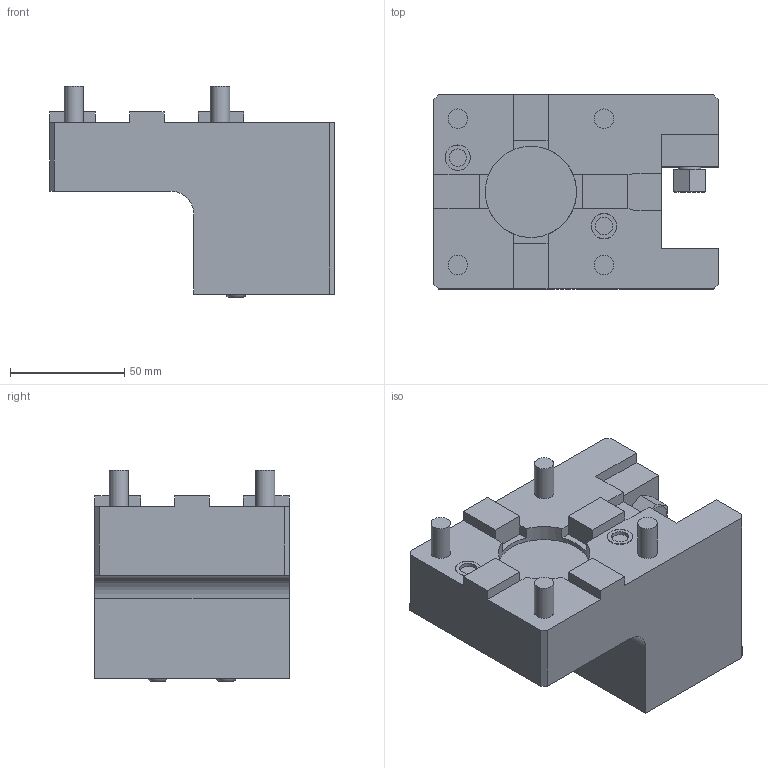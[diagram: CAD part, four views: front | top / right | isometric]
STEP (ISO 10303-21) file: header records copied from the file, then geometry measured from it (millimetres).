
FILE_DESCRIPTION(/* description */ (''),/* implementation_level */ '2;1');
FILE_NAME(/* name */ '197944-UNI',/* time_stamp */ '2021-12-15T15:16:32+01:00',/* author */ (''),/* organization */ (''),/* preprocessor_version */ 'ST-DEVELOPER v16.5',/* originating_system */ 'HiCAD 2017 2201.0 Build 268',/* authorisation */ '');
FILE_SCHEMA (('AUTOMOTIVE_DESIGN { 1 0 10303 214 1 1 1 1 }'));
Length unit declared in the file: millimetre
Products named in the file (2): Root; Teil
Assembly tree (1 placements, depth 2):
  Root
    Teil
Bounding box: 124.5 x 85 x 92.66 mm (x, y, z)
Volume: 484147.9 mm3; surface area: 59995.3 mm2
Topology: 1 solids, 1 shells, 190 faces, 445 edges, 285 vertices
Faces by surface type: plane 150, cylinder 27, cone 7, torus 4, sphere 2
Full cylindrical faces by diameter (mm): 6 x2, 7.65 x2, 8.5 x4, 9.6 x3, 11.01 x2, 11.1 x2, 16 x4, 18 x4, 40 x1
Entity records: 9044 total; most frequent: DIRECTION 891, CARTESIAN_POINT 859, PRESENTATION_STYLE_ASSIGNMENT 787, COLOUR_RGB 787, DRAUGHTING_PRE_DEFINED_CURVE_FONT 786, CURVE_STYLE 786, OVER_RIDING_STYLED_ITEM 786, ORIENTED_EDGE 786
